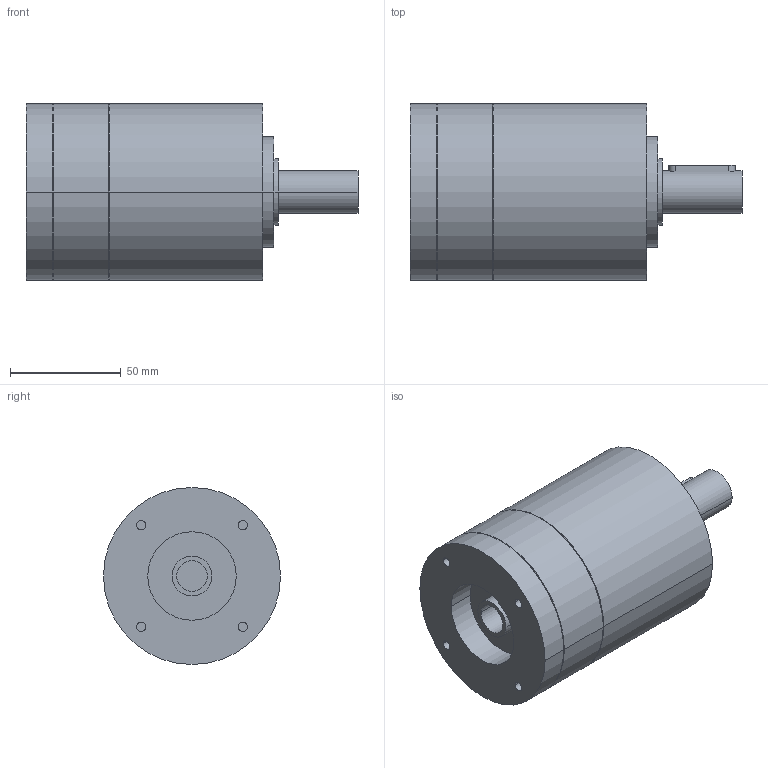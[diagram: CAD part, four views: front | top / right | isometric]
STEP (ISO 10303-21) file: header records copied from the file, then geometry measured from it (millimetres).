
FILE_DESCRIPTION(('CoCreate Modeling STEP Export'),'2;1');
FILE_NAME('GPR100_ig-3-4-5-6_19_B14_14_P26.stp','2014-08-26T10:07:23',(''),(''),'CoCreate Modeling STEP processor for AP214 (Solid Model)','CoCreate Modeling 16.00C 25-Feb-2009 (C) Parametric Technology GmbH','');
FILE_SCHEMA(('AUTOMOTIVE_DESIGN { 1 0 10303 214 1 1 1 1 }'));
Length unit declared in the file: millimetre
Products named in the file (2): GPR100_ig-3-4-5-6_19_B14_14_P26
Assembly tree (1 placements, depth 2):
  GPR100_ig-3-4-5-6_19_B14_14_P26
    GPR100_ig-3-4-5-6_19_B14_14_P26
Bounding box: 150 x 80 x 80 mm (x, y, z)
Volume: 538979.6 mm3; surface area: 45751.8 mm2
Topology: 1 solids, 1 shells, 65 faces, 157 edges, 109 vertices
Faces by surface type: cylinder 38, plane 21, cone 6
Entity records: 1631 total; most frequent: ORIENTED_EDGE 310, CARTESIAN_POINT 305, DIRECTION 214, EDGE_CURVE 155, VERTEX_POINT 109, AXIS2_PLACEMENT_3D 82, EDGE_LOOP 82, FACE_OUTER_BOUND 65
